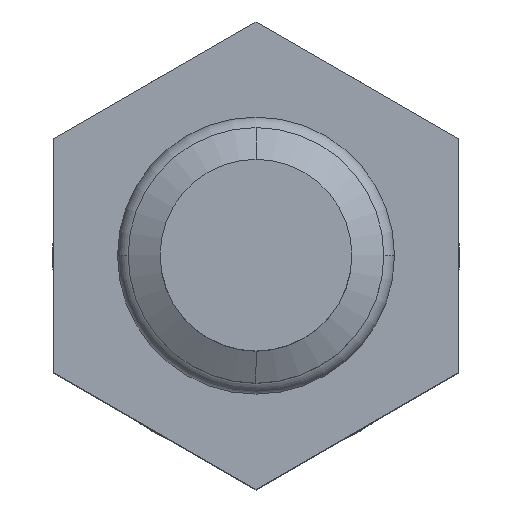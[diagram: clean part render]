
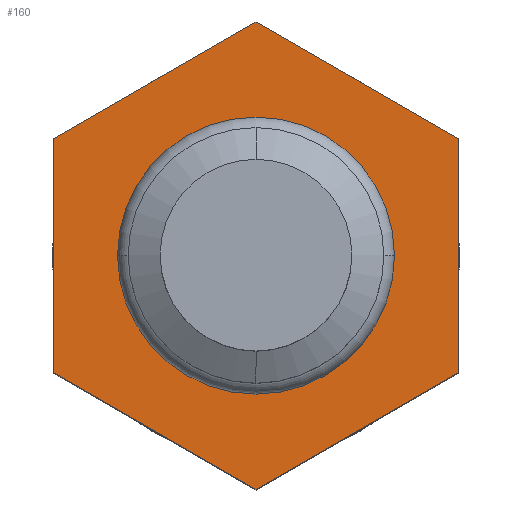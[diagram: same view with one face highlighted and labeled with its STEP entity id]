
A CAD part, top view. The second image highlights one B-rep face of the part: STEP entity #160.
In plain terms, the highlighted planar face has unit normal (0, 0, 1).
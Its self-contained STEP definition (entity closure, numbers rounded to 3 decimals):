
#160=ADVANCED_FACE('',(#365,#366),#367,.T.);
#365=FACE_OUTER_BOUND('',#624,.T.);
#366=FACE_BOUND('',#625,.T.);
#367=PLANE('',#626);
#624=EDGE_LOOP('',(#1026,#1027,#1028,#1029,#1030,#1031));
#625=EDGE_LOOP('',(#1032,#1033));
#626=AXIS2_PLACEMENT_3D('',#1034,#1035,#1036);
#1026=ORIENTED_EDGE('',*,*,#1568,.F.);
#1027=ORIENTED_EDGE('',*,*,#1569,.F.);
#1028=ORIENTED_EDGE('',*,*,#1570,.F.);
#1029=ORIENTED_EDGE('',*,*,#1571,.F.);
#1030=ORIENTED_EDGE('',*,*,#1572,.F.);
#1031=ORIENTED_EDGE('',*,*,#1573,.F.);
#1032=ORIENTED_EDGE('',*,*,#1532,.F.);
#1033=ORIENTED_EDGE('',*,*,#1566,.F.);
#1034=CARTESIAN_POINT('',(0.,0.,17.3));
#1035=DIRECTION('',(0.0,0.0,1.0));
#1036=DIRECTION('',(1.0,-0.0,0.0));
#1532=EDGE_CURVE('',#1845,#1847,#1848,.T.);
#1566=EDGE_CURVE('',#1847,#1845,#1892,.T.);
#1568=EDGE_CURVE('',#1894,#1895,#1896,.T.);
#1569=EDGE_CURVE('',#1897,#1894,#1898,.T.);
#1570=EDGE_CURVE('',#1899,#1897,#1900,.T.);
#1571=EDGE_CURVE('',#1901,#1899,#1902,.T.);
#1572=EDGE_CURVE('',#1903,#1901,#1904,.T.);
#1573=EDGE_CURVE('',#1895,#1903,#1905,.T.);
#1845=VERTEX_POINT('',#2295);
#1847=VERTEX_POINT('',#2297);
#1848=CIRCLE('',#2298,5.6);
#1892=CIRCLE('',#2352,5.6);
#1894=VERTEX_POINT('',#2354);
#1895=VERTEX_POINT('',#2355);
#1896=LINE('',#2356,#2357);
#1897=VERTEX_POINT('',#2358);
#1898=LINE('',#2359,#2360);
#1899=VERTEX_POINT('',#2361);
#1900=LINE('',#2362,#2363);
#1901=VERTEX_POINT('',#2364);
#1902=LINE('',#2365,#2366);
#1903=VERTEX_POINT('',#2367);
#1904=LINE('',#2368,#2369);
#1905=LINE('',#2370,#2371);
#2295=CARTESIAN_POINT('',(5.6,0.,17.3));
#2297=CARTESIAN_POINT('',(-5.6,0.,17.3));
#2298=AXIS2_PLACEMENT_3D('',#2728,#2729,#2730);
#2352=AXIS2_PLACEMENT_3D('',#2774,#2775,#2776);
#2354=CARTESIAN_POINT('',(0.,10.97,17.3));
#2355=CARTESIAN_POINT('',(9.5,5.485,17.3));
#2356=CARTESIAN_POINT('',(0.0,10.97,17.3));
#2357=VECTOR('',#2777,10.97);
#2358=CARTESIAN_POINT('',(-9.5,5.485,17.3));
#2359=CARTESIAN_POINT('',(-9.5,5.485,17.3));
#2360=VECTOR('',#2778,10.97);
#2361=CARTESIAN_POINT('',(-9.5,-5.485,17.3));
#2362=CARTESIAN_POINT('',(-9.5,-5.485,17.3));
#2363=VECTOR('',#2779,10.97);
#2364=CARTESIAN_POINT('',(0.,-10.97,17.3));
#2365=CARTESIAN_POINT('',(0.,-10.97,17.3));
#2366=VECTOR('',#2780,10.97);
#2367=CARTESIAN_POINT('',(9.5,-5.485,17.3));
#2368=CARTESIAN_POINT('',(9.5,-5.485,17.3));
#2369=VECTOR('',#2781,10.97);
#2370=CARTESIAN_POINT('',(9.5,5.485,17.3));
#2371=VECTOR('',#2782,10.97);
#2728=CARTESIAN_POINT('',(0.0,0.0,17.3));
#2729=DIRECTION('',(0.0,0.0,1.0));
#2730=DIRECTION('',(-1.0,0.0,0.0));
#2774=CARTESIAN_POINT('',(0.0,0.0,17.3));
#2775=DIRECTION('',(0.0,0.0,1.0));
#2776=DIRECTION('',(-1.0,0.0,0.0));
#2777=DIRECTION('',(0.866,-0.5,0.0));
#2778=DIRECTION('',(0.866,0.5,0.0));
#2779=DIRECTION('',(0.0,1.0,0.0));
#2780=DIRECTION('',(-0.866,0.5,0.0));
#2781=DIRECTION('',(-0.866,-0.5,0.0));
#2782=DIRECTION('',(0.0,-1.0,0.0));
